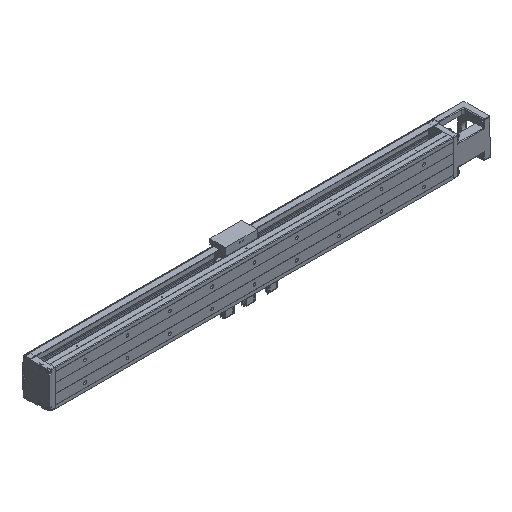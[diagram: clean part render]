
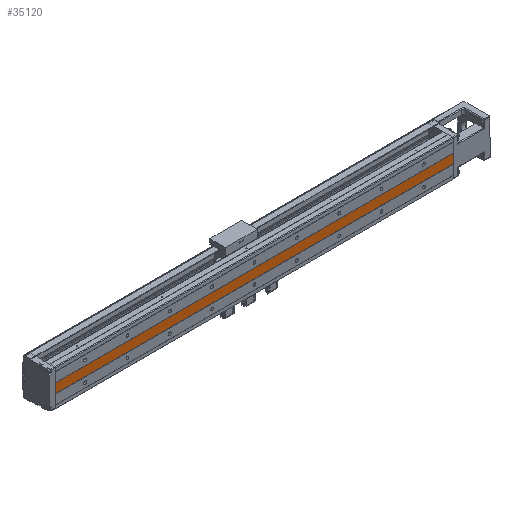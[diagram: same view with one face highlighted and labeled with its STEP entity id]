
A CAD part, isometric view. The second image highlights one B-rep face of the part: STEP entity #35120.
In plain terms, the highlighted planar face has unit normal (0, -1, 0).
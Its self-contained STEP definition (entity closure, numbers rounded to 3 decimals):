
#282 = CARTESIAN_POINT ( 'NONE',  ( -320., -31.5, 11. ) ) ;
#1166 = EDGE_CURVE ( 'NONE', #15391, #29227, #25535, .T. ) ;
#1784 = PLANE ( 'NONE',  #3296 ) ;
#3296 = AXIS2_PLACEMENT_3D ( 'NONE', #5418, #35328, #41721 ) ;
#3472 = CARTESIAN_POINT ( 'NONE',  ( 420., -31.5, 11. ) ) ;
#5418 = CARTESIAN_POINT ( 'NONE',  ( 420., -31.5, -11. ) ) ;
#6013 = CARTESIAN_POINT ( 'NONE',  ( -320., -31.5, -11. ) ) ;
#6182 = CARTESIAN_POINT ( 'NONE',  ( -520., -31.5, -5.5 ) ) ;
#8452 = CARTESIAN_POINT ( 'NONE',  ( -520., -31.5, -11. ) ) ;
#11786 = ORIENTED_EDGE ( 'NONE', *, *, #1166, .F. ) ;
#12209 = LINE ( 'NONE', #6013, #24101 ) ;
#15391 = VERTEX_POINT ( 'NONE', #3472 ) ;
#22142 = EDGE_LOOP ( 'NONE', ( #32641, #36760, #11786, #24770 ) ) ;
#22676 = EDGE_CURVE ( 'NONE', #30551, #15391, #39186, .T. ) ;
#23456 = DIRECTION ( 'NONE',  ( 1., 0., 0. ) ) ;
#24101 = VECTOR ( 'NONE', #42466, 1000. ) ;
#24770 = ORIENTED_EDGE ( 'NONE', *, *, #22676, .F. ) ;
#25421 = DIRECTION ( 'NONE',  ( 0., 0., -1. ) ) ;
#25535 = LINE ( 'NONE', #35337, #32291 ) ;
#26096 = VERTEX_POINT ( 'NONE', #8452 ) ;
#29227 = VERTEX_POINT ( 'NONE', #42521 ) ;
#30551 = VERTEX_POINT ( 'NONE', #37242 ) ;
#30806 = VECTOR ( 'NONE', #23456, 1000. ) ;
#31898 = VECTOR ( 'NONE', #36086, 1000. ) ;
#32291 = VECTOR ( 'NONE', #25421, 1000. ) ;
#32641 = ORIENTED_EDGE ( 'NONE', *, *, #32958, .T. ) ;
#32958 = EDGE_CURVE ( 'NONE', #30551, #26096, #42292, .T. ) ;
#35120 = ADVANCED_FACE ( 'NONE', ( #38467 ), #1784, .T. ) ;
#35328 = DIRECTION ( 'NONE',  ( 0., -1., 0. ) ) ;
#35337 = CARTESIAN_POINT ( 'NONE',  ( 420., -31.5, 11. ) ) ;
#36086 = DIRECTION ( 'NONE',  ( 0., 0., -1. ) ) ;
#36760 = ORIENTED_EDGE ( 'NONE', *, *, #40305, .T. ) ;
#37242 = CARTESIAN_POINT ( 'NONE',  ( -520., -31.5, 11. ) ) ;
#38467 = FACE_OUTER_BOUND ( 'NONE', #22142, .T. ) ;
#39186 = LINE ( 'NONE', #282, #30806 ) ;
#40305 = EDGE_CURVE ( 'NONE', #26096, #29227, #12209, .T. ) ;
#41721 = DIRECTION ( 'NONE',  ( -1., 0., 0. ) ) ;
#42292 = LINE ( 'NONE', #6182, #31898 ) ;
#42466 = DIRECTION ( 'NONE',  ( 1., 0., 0. ) ) ;
#42521 = CARTESIAN_POINT ( 'NONE',  ( 420., -31.5, -11. ) ) ;
